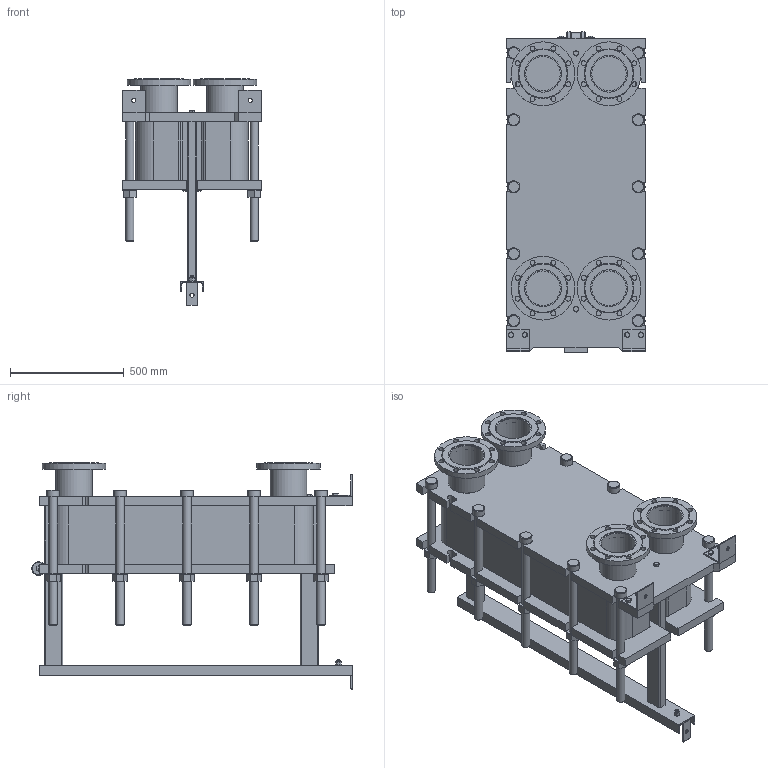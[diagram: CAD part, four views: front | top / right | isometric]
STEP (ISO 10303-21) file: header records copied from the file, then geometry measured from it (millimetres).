
FILE_DESCRIPTION(/* description */ (''),/* implementation_level */ '2;1');
FILE_NAME(/* name */ 'C:\Users\zhuro\Desktop\ENCO\TO\ЭН-041\ЭН-0,5-041-74-1.stp',/* time_stamp */ '2022-06-06T10:55:35+03:00',/* author */ ('zhuro'),/* organization */ (''),/* preprocessor_version */ 'ST-DEVELOPER v18.1',/* originating_system */ 'Autodesk Inventor 2022',/* authorisation */ '');
FILE_SCHEMA (('AUTOMOTIVE_DESIGN { 1 0 10303 214 3 1 1 }'));
Length unit declared in the file: millimetre
Products named in the file (1): ЭН-0,5-041-74-1
Bounding box: 610 x 1406.5 x 995 mm (x, y, z)
Volume: 222236302.6 mm3; surface area: 8451232.4 mm2
Topology: 52 solids, 52 shells, 711 faces, 1696 edges, 1094 vertices
Faces by surface type: plane 487, cylinder 177, cone 41, torus 6
Full cylindrical faces by diameter (mm): 8 x4, 10 x2, 16 x8, 18 x3, 22 x32, 36 x24, 50 x1, 54 x10, 60 x12, 151 x4, 161 x8, 280 x4
Entity records: 22667 total; most frequent: CARTESIAN_POINT 5230, DIRECTION 3644, ORIENTED_EDGE 3392, EDGE_CURVE 1696, AXIS2_PLACEMENT_3D 1272, LINE 1100, VECTOR 1100, VERTEX_POINT 1094
